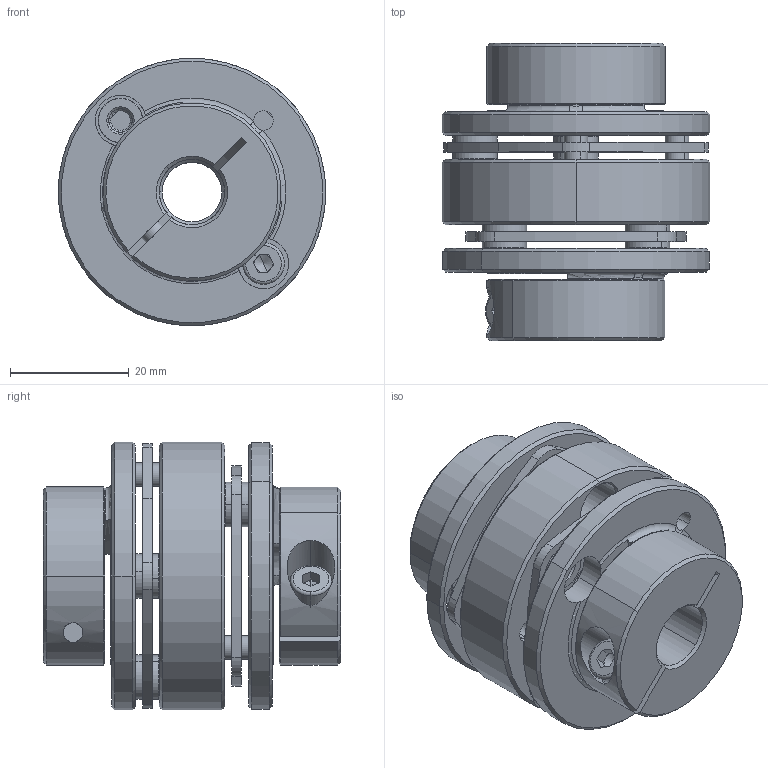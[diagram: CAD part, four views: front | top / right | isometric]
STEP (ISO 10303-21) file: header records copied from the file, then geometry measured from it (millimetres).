
FILE_DESCRIPTION (( 'STEP AP203' ), '1' );
FILE_NAME ('LE2-B-D45L50-10-11.STEP', '2021-11-01T06:27:38', ( '' ), ( '' ), 'SwSTEP 2.0', 'SolidWorks 2018', '' );
FILE_SCHEMA (( 'CONFIG_CONTROL_DESIGN' ));
Length unit declared in the file: millimetre
Products named in the file (1): LE2-B-D45L50-10-11
Bounding box: 45 x 50 x 45 mm (x, y, z)
Volume: 37187.9 mm3; surface area: 23943.4 mm2
Topology: 1 solids, 5 shells, 494 faces, 1194 edges, 732 vertices
Faces by surface type: cylinder 178, cone 154, plane 142, torus 18, bspline 2
Entity records: 14963 total; most frequent: CARTESIAN_POINT 2891, DIRECTION 2748, ORIENTED_EDGE 2364, EDGE_CURVE 1182, AXIS2_PLACEMENT_3D 1123, VERTEX_POINT 732, CIRCLE 630, EDGE_LOOP 586
